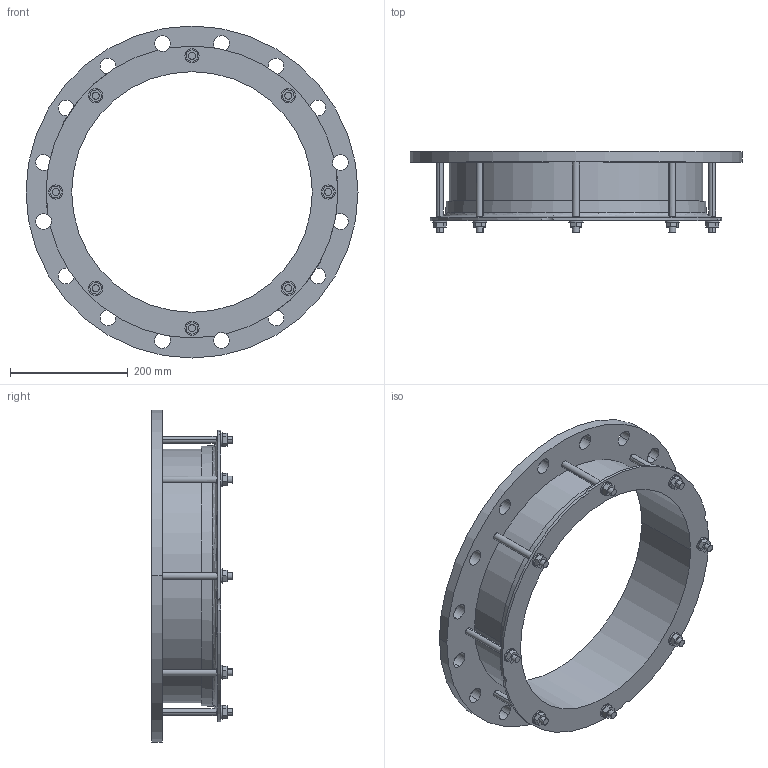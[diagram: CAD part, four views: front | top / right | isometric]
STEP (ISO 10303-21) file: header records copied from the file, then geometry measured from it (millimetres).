
FILE_DESCRIPTION((''),'2;1');
FILE_NAME('406X400PN10_4NOT','2019-01-16T',('mfairey'),('Glynwed Pipe Systems'),'CREO PARAMETRIC BY PTC INC, 2016130','CREO PARAMETRIC BY PTC INC, 2016130','');
FILE_SCHEMA(('CONFIG_CONTROL_DESIGN'));
Length unit declared in the file: millimetre
Products named in the file (1): 406X400PN10_4NOT
Bounding box: 565 x 137.45 x 565 mm (x, y, z)
Volume: 4073671.2 mm3; surface area: 684590.7 mm2
Topology: 1 solids, 1 shells, 176 faces, 466 edges, 310 vertices
Faces by surface type: cylinder 94, plane 76, cone 4, torus 2
Entity records: 6120 total; most frequent: CARTESIAN_POINT 1496, DIRECTION 962, ORIENTED_EDGE 932, EDGE_CURVE 466, AXIS2_PLACEMENT_3D 360, VERTEX_POINT 310, EDGE_LOOP 244, VECTOR 242
